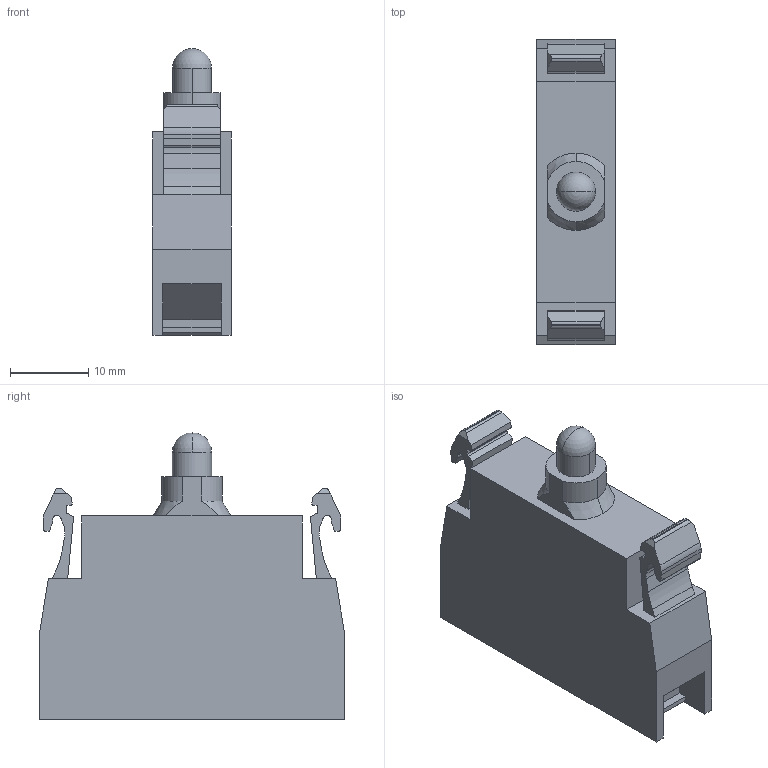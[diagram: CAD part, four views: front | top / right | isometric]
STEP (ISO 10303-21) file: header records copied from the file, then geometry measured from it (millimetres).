
FILE_DESCRIPTION( ( '' ), '1' );
FILE_NAME( '//expscmdclustefs.cadenas.external/client_exchange/iodir/jobs/output/wkb46018736_no0/STEP/113890_2_03.stp', '2012-06-15T19:54:07', ( '' ), ( '' ), ' ', ' ', ' ' );
FILE_SCHEMA( ( 'CONFIG_CONTROL_DESIGN' ) );
Length unit declared in the file: millimetre
Products named in the file (1): 1
Bounding box: 10 x 39 x 36.65 mm (x, y, z)
Volume: 9549.5 mm3; surface area: 3868 mm2
Topology: 1 solids, 1 shells, 107 faces, 304 edges, 201 vertices
Faces by surface type: plane 69, cylinder 32, cone 4, sphere 2
Entity records: 3500 total; most frequent: CARTESIAN_POINT 619, ORIENTED_EDGE 604, DIRECTION 586, EDGE_CURVE 302, LINE 226, VECTOR 226, VERTEX_POINT 201, AXIS2_PLACEMENT_3D 180
